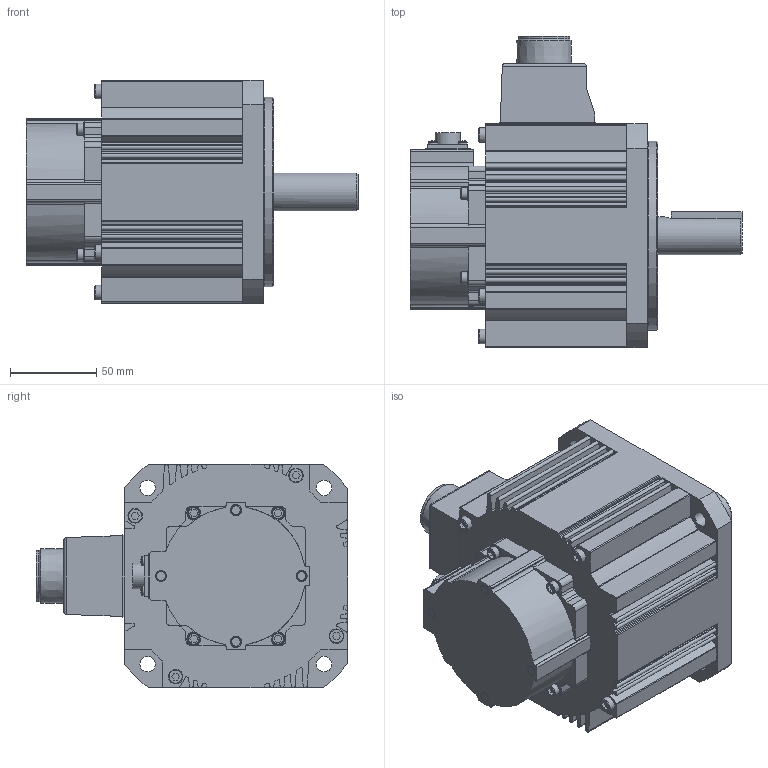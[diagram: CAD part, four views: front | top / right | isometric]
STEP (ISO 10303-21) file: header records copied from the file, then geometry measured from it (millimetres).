
FILE_DESCRIPTION( ( 'STEP AP0' ), '1' );
FILE_NAME( '//expscmdclustefs.cadenas.external/client_exchange/iodir/jobs/output/wkb64902353_no0/STEP/MDME102G1G_2_03.stp', ' ', ( ' ' ), ( ' ' ), 'PSStep 15.0.47', 'PARTsolutions', ' ' );
FILE_SCHEMA( ( 'CONFIG_CONTROL_DESIGN' ) );
Length unit declared in the file: millimetre
Products named in the file (1): HI_MDME102G1G
Bounding box: 193 x 181 x 130 mm (x, y, z)
Volume: 1779947.9 mm3; surface area: 129423.1 mm2
Topology: 1 solids, 1 shells, 544 faces, 1436 edges, 942 vertices
Faces by surface type: plane 281, cylinder 224, cone 18, torus 17, sphere 4
Full cylindrical faces by diameter (mm): 2.459 x1, 5.5 x4, 6.5 x4, 7 x4, 8.5 x4, 9 x4, 10.1 x4, 10.5 x4, 14.8 x1, 22 x1, 29.74 x1, 34 x1, 38 x1, 45 x1, 102 x1, 110 x1
Entity records: 16723 total; most frequent: CARTESIAN_POINT 3121, DIRECTION 2901, ORIENTED_EDGE 2708, EDGE_CURVE 1354, AXIS2_PLACEMENT_3D 1037, VERTEX_POINT 935, LINE 827, VECTOR 827
